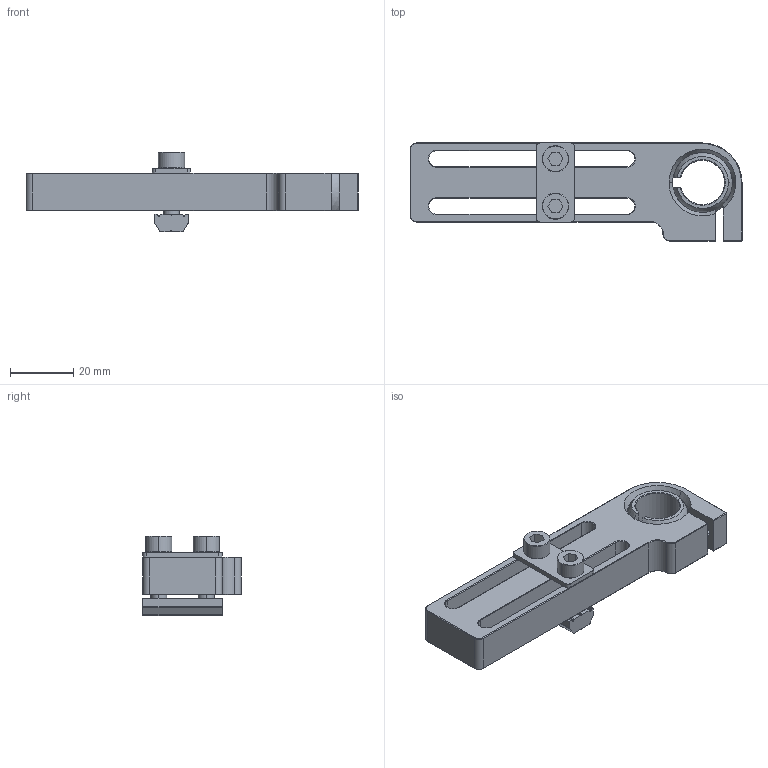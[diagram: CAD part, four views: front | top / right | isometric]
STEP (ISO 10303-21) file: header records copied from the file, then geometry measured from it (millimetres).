
FILE_DESCRIPTION (( 'STEP AP214' ), '1' );
FILE_NAME ('SMBE8-1460T.STEP', '2023-03-03T08:18:02', ( 'Windows User' ), ( 'P R C' ), 'SwSTEP 2.0', 'SolidWorks 2019', '' );
FILE_SCHEMA (( 'AUTOMOTIVE_DESIGN' ));
Length unit declared in the file: millimetre
Products named in the file (6): SMBE8-1460T; PTD-M5P15; PTC-M5L20; SMBE8-1460球关节重型固定支架; PTN-M5P15; SMBE8-1460⑩壽誹
Assembly tree (6 placements, depth 2):
  SMBE8-1460T
    SMBE8-1460球关节重型固定支架
    SMBE8-1460⑩壽誹
    PTD-M5P15
    PTN-M5P15
    PTC-M5L20  x2
Bounding box: 105 x 31 x 25 mm (x, y, z)
Volume: 24846.4 mm3; surface area: 15044.9 mm2
Topology: 6 solids, 6 shells, 222 faces, 576 edges, 361 vertices
Faces by surface type: plane 95, cylinder 65, cone 45, torus 12, sphere 5
Entity records: 6501 total; most frequent: CARTESIAN_POINT 1252, DIRECTION 1053, ORIENTED_EDGE 1040, EDGE_CURVE 520, AXIS2_PLACEMENT_3D 386, VERTEX_POINT 327, LINE 281, VECTOR 281
